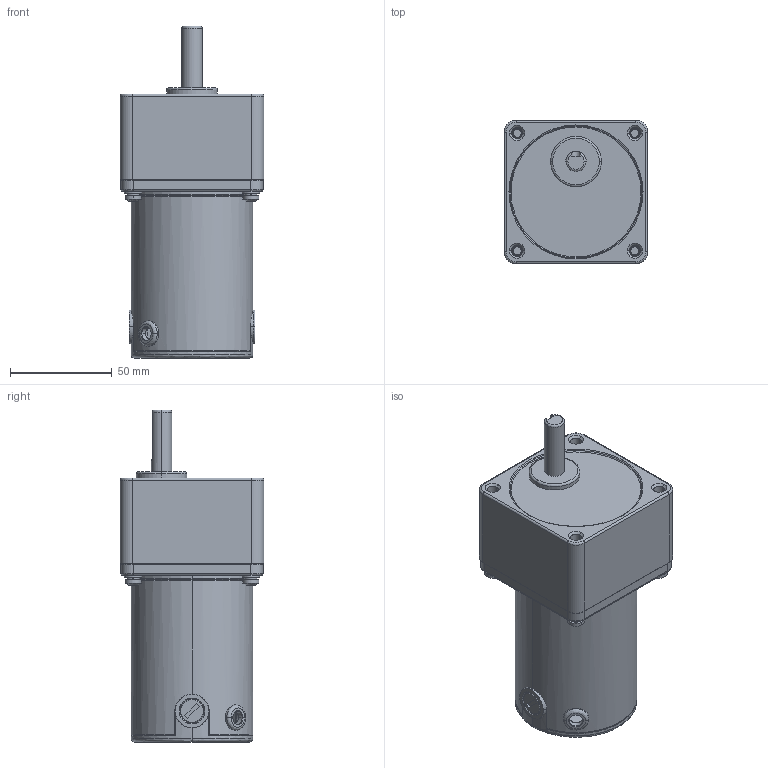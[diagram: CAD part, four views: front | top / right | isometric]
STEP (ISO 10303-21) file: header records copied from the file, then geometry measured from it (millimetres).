
FILE_DESCRIPTION (( 'STEP AP203' ), '1' );
FILE_NAME ('70 77儂褲俋离.STEP', '2021-07-17T00:30:59', ( '' ), ( '' ), 'SwSTEP 2.0', 'SolidWorks 2019', '' );
FILE_SCHEMA (( 'CONFIG_CONTROL_DESIGN' ));
Length unit declared in the file: millimetre
Products named in the file (14): 70喘謫眊_1; 蚾饜极73^70 65儂褲俋离; L-70-11; 装配体76^装配体72_70 65机壳外置; 蚾饜极75^70 65儂褲俋离; P-70; 70 77儂褲俋离; T-70; Q-70; J-70; 蚾饜极72^70 65儂褲俋离; L-70; 蚾饜极74^70 65儂褲俋离; 70-H
Assembly tree (23 placements, depth 4):
  70 77儂褲俋离
    蚾饜极73^70 65儂褲俋离
      T-70
      P-70
      L-70-11
    蚾饜极72^70 65儂褲俋离
      装配体76^装配体72_70 65机壳外置
        T-70
        P-70
        L-70-11
    蚾饜极75^70 65儂褲俋离
      P-70
      L-70-11
      T-70
    蚾饜极74^70 65儂褲俋离
      P-70
      L-70-11
      T-70
    L-70  x2
    J-70
    Q-70
    70-H
    70喘謫眊_1
Bounding box: 70.8 x 70.8 x 163.5 mm (x, y, z)
Volume: 279106.1 mm3; surface area: 80578.1 mm2
Topology: 21 solids, 21 shells, 532 faces, 1269 edges, 790 vertices
Faces by surface type: cylinder 179, plane 166, cone 152, bspline 22, torus 13
Entity records: 12473 total; most frequent: CARTESIAN_POINT 3087, DIRECTION 1705, ORIENTED_EDGE 1534, EDGE_CURVE 767, AXIS2_PLACEMENT_3D 683, VERTEX_POINT 485, EDGE_LOOP 364, CIRCLE 347
